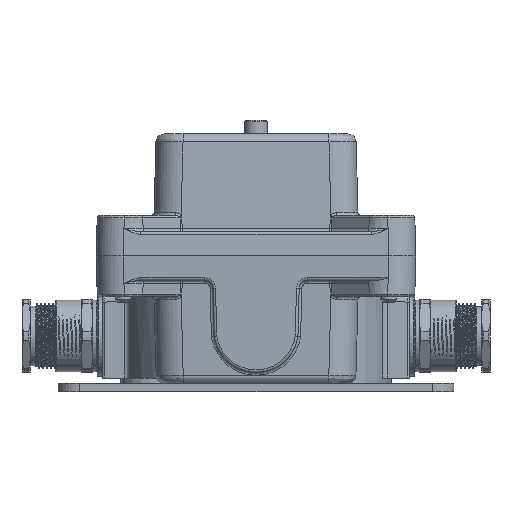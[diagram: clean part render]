
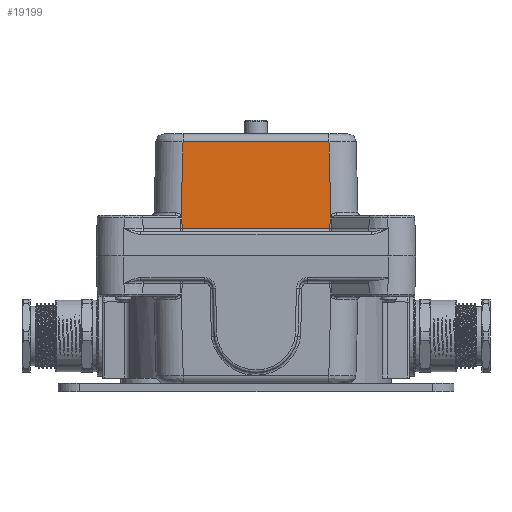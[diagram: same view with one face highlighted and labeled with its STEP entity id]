
A CAD part, left-side view. The second image highlights one B-rep face of the part: STEP entity #19199.
In plain terms, the highlighted planar face has unit normal (-1, 0, 0.026).
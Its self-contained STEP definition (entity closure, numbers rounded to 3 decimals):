
#19199=ADVANCED_FACE('',(#90258),#90260,.T.);
#90258=FACE_BOUND('',#90259,.T.);
#90259=EDGE_LOOP('',(#104975,#104976,#104977,#104978,#104979,#104980,#104981,#104982));
#90260=PLANE('',#90261);
#90261=AXIS2_PLACEMENT_3D('',#90262,#90263,#90264);
#90262=CARTESIAN_POINT('',(-84.768,27.676,8.5));
#90263=DIRECTION('',(-1.,0.,0.026));
#90264=DIRECTION('',(0.,-1.,0.));
#104975=ORIENTED_EDGE('',*,*,#111992,.T.);
#104976=ORIENTED_EDGE('',*,*,#111946,.T.);
#104977=ORIENTED_EDGE('',*,*,#111994,.F.);
#104978=ORIENTED_EDGE('',*,*,#111881,.T.);
#104979=ORIENTED_EDGE('',*,*,#111988,.F.);
#104980=ORIENTED_EDGE('',*,*,#111863,.F.);
#104981=ORIENTED_EDGE('',*,*,#111995,.F.);
#104982=ORIENTED_EDGE('',*,*,#111803,.F.);
#111803=EDGE_CURVE('',#121305,#121307,#121308,.T.);
#111863=EDGE_CURVE('',#121393,#121395,#121396,.T.);
#111881=EDGE_CURVE('',#121420,#121418,#121421,.T.);
#111946=EDGE_CURVE('',#121511,#121513,#121515,.T.);
#111988=EDGE_CURVE('',#121395,#121418,#121579,.T.);
#111992=EDGE_CURVE('',#121305,#121511,#121584,.T.);
#111994=EDGE_CURVE('',#121420,#121513,#121586,.T.);
#111995=EDGE_CURVE('',#121307,#121393,#121587,.T.);
#121305=VERTEX_POINT('',#186571);
#121307=VERTEX_POINT('',#186576);
#121308=LINE('',#186577,#186578);
#121393=VERTEX_POINT('',#187222);
#121395=VERTEX_POINT('',#187237);
#121396=LINE('',#187238,#187239);
#121418=VERTEX_POINT('',#187381);
#121420=VERTEX_POINT('',#187410);
#121421=LINE('',#187411,#187412);
#121511=VERTEX_POINT('',#188077);
#121513=VERTEX_POINT('',#188082);
#121515=LINE('',#188091,#188092);
#121579=LINE('',#188493,#188494);
#121584=LINE('',#188509,#188510);
#121586=B_SPLINE_CURVE_WITH_KNOTS('',3,
(#188516,#188517,#188518,#188519,#188520,#188521,#188522,#188523,#188524,#188525,
#188526,#188527,#188528,#188529,#188530,#188531),
.UNSPECIFIED.,.F.,.F.,
(4,2,2,2,2,2,2,4),
(0.,0.144,0.282,0.423,0.569,0.725,
0.902,1.),
.UNSPECIFIED.);
#121587=B_SPLINE_CURVE_WITH_KNOTS('',3,
(#188532,#188533,#188534,#188535,#188536,#188537,#188538,#188539,#188540,#188541,
#188542,#188543,#188544,#188545,#188546,#188547),
.UNSPECIFIED.,.F.,.F.,
(4,2,2,2,2,2,2,4),
(0.,0.121,0.299,0.479,0.668,0.831,
0.974,1.),
.UNSPECIFIED.);
#186571=CARTESIAN_POINT('',(-84.743,27.273,9.474));
#186576=CARTESIAN_POINT('',(-84.637,27.317,13.526));
#186577=CARTESIAN_POINT('',(-84.743,27.273,9.474));
#186578=VECTOR('',#186579,1.);
#186579=DIRECTION('',(0.026,0.011,1.));
#187222=CARTESIAN_POINT('',(-84.614,27.617,14.404));
#187237=CARTESIAN_POINT('',(-83.902,26.906,41.579));
#187238=CARTESIAN_POINT('',(-84.614,27.617,14.404));
#187239=VECTOR('',#187240,1.);
#187240=DIRECTION('',(0.026,-0.026,0.999));
#187381=CARTESIAN_POINT('',(-83.902,-26.906,41.579));
#187410=CARTESIAN_POINT('',(-84.614,-27.617,14.404));
#187411=CARTESIAN_POINT('',(-84.614,-27.617,14.404));
#187412=VECTOR('',#187413,1.);
#187413=DIRECTION('',(0.026,0.026,0.999));
#188077=CARTESIAN_POINT('',(-84.743,-27.273,9.474));
#188082=CARTESIAN_POINT('',(-84.637,-27.317,13.526));
#188091=CARTESIAN_POINT('',(-84.743,-27.273,9.474));
#188092=VECTOR('',#188093,1.);
#188093=DIRECTION('',(0.026,-0.011,1.));
#188493=CARTESIAN_POINT('',(-83.902,26.906,41.579));
#188494=VECTOR('',#188495,1.);
#188495=DIRECTION('',(0.,-1.,0.));
#188509=CARTESIAN_POINT('',(-84.743,27.273,9.474));
#188510=VECTOR('',#188511,1.);
#188511=DIRECTION('',(0.,-1.,0.));
#188516=CARTESIAN_POINT('',(-84.614,-27.617,14.404));
#188517=CARTESIAN_POINT('',(-84.615,-27.593,14.368));
#188518=CARTESIAN_POINT('',(-84.616,-27.568,14.333));
#188519=CARTESIAN_POINT('',(-84.617,-27.524,14.26));
#188520=CARTESIAN_POINT('',(-84.618,-27.503,14.224));
#188521=CARTESIAN_POINT('',(-84.62,-27.464,14.148));
#188522=CARTESIAN_POINT('',(-84.621,-27.446,14.109));
#188523=CARTESIAN_POINT('',(-84.624,-27.412,14.026));
#188524=CARTESIAN_POINT('',(-84.625,-27.396,13.982));
#188525=CARTESIAN_POINT('',(-84.627,-27.367,13.891));
#188526=CARTESIAN_POINT('',(-84.628,-27.355,13.842));
#188527=CARTESIAN_POINT('',(-84.631,-27.334,13.736));
#188528=CARTESIAN_POINT('',(-84.633,-27.325,13.68));
#188529=CARTESIAN_POINT('',(-84.635,-27.318,13.59));
#188530=CARTESIAN_POINT('',(-84.636,-27.318,13.558));
#188531=CARTESIAN_POINT('',(-84.637,-27.317,13.526));
#188532=CARTESIAN_POINT('',(-84.637,27.317,13.526));
#188533=CARTESIAN_POINT('',(-84.636,27.318,13.566));
#188534=CARTESIAN_POINT('',(-84.635,27.319,13.605));
#188535=CARTESIAN_POINT('',(-84.632,27.328,13.702));
#188536=CARTESIAN_POINT('',(-84.631,27.337,13.759));
#188537=CARTESIAN_POINT('',(-84.628,27.362,13.871));
#188538=CARTESIAN_POINT('',(-84.626,27.378,13.927));
#188539=CARTESIAN_POINT('',(-84.623,27.415,14.037));
#188540=CARTESIAN_POINT('',(-84.622,27.438,14.092));
#188541=CARTESIAN_POINT('',(-84.619,27.485,14.19));
#188542=CARTESIAN_POINT('',(-84.618,27.509,14.235));
#188543=CARTESIAN_POINT('',(-84.616,27.556,14.314));
#188544=CARTESIAN_POINT('',(-84.615,27.58,14.35));
#188545=CARTESIAN_POINT('',(-84.614,27.608,14.391));
#188546=CARTESIAN_POINT('',(-84.614,27.613,14.398));
#188547=CARTESIAN_POINT('',(-84.614,27.617,14.404));
